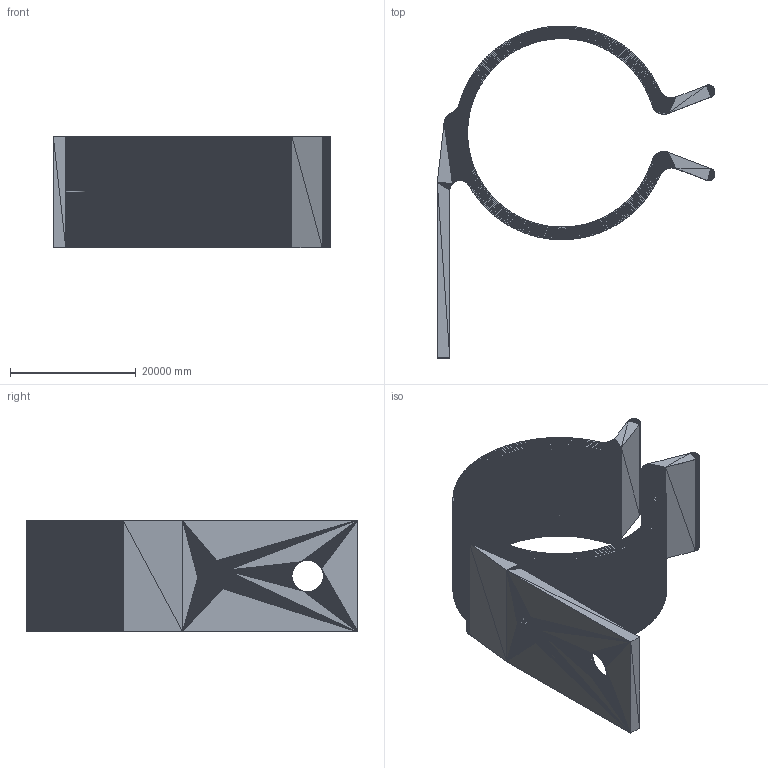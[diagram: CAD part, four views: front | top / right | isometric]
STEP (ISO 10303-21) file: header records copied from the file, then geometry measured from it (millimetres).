
FILE_DESCRIPTION (( 'STEP AP214' ), '1' );
FILE_NAME ('fixing_clamp.STEP', '2020-02-24T21:53:58', ( '' ), ( '' ), 'SwSTEP 2.0', 'SolidWorks 2017', '' );
FILE_SCHEMA (( 'AUTOMOTIVE_DESIGN' ));
Products named in the file (1): fixing_clamp
Bounding box: 44190 x 52824.47 x 17800 mm (x, y, z)
Volume: 5394613906242.3 mm3; surface area: 5635591036.1 mm2
Topology: 1 solids, 1 shells, 19062 faces, 28593 edges, 9529 vertices
Faces by surface type: plane 19062
Entity records: 371747 total; most frequent: DIRECTION 66719, ORIENTED_EDGE 57186, CARTESIAN_POINT 57185, VECTOR 28593, EDGE_CURVE 28593, LINE 28593, AXIS2_PLACEMENT_3D 19063, PLANE 19062
